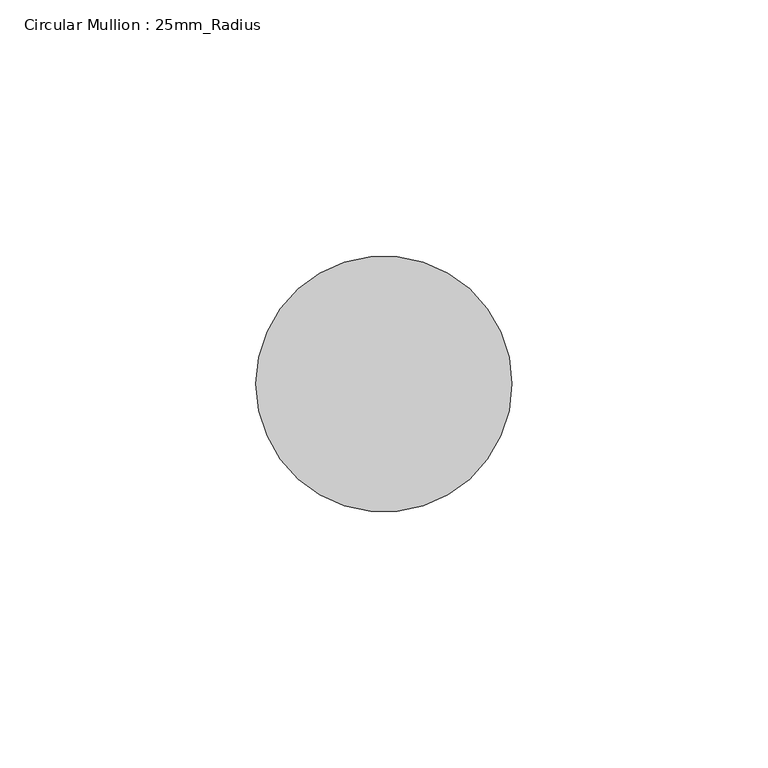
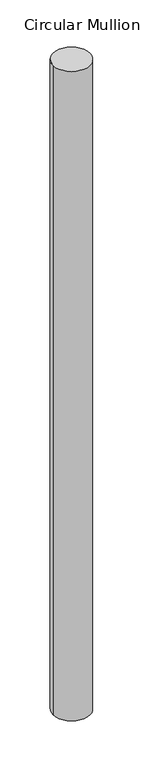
"""IFC4 building model written with IfcOpenShell, lengths in millimetres: member geometry, Circular Mullion : 25mm_Radius."""

from ifc_helpers import new_model, si_unit, point, frame, frame_2d, origin, place, context, project, spatial, circle_curve, trimmed, segment, composite_curve, outline, extrude, source, transform, mapped, element, save


def circular_mullion_25mm_radius_d6186367(model_context):
    return source(origin(), model_context, "Body", "SweptSolid", [
        extrude(outline(composite_curve([segment(trimmed(circle_curve(frame_2d((-25.0, 0.0)), 25.0), [point((0.0, 0.0))], [point((-50.0, 0.0))], False, "CARTESIAN"), True, "CONTINUOUS"), segment(trimmed(circle_curve(frame_2d((-25.0, 0.0)), 25.0), [point((-50.0, 0.0))], [point((0.0, 0.0))], False, "CARTESIAN"), True, "CONTINUOUS")], self_intersect=False)), frame((0.0, 0.0, -930.0), z_axis=(0.0, 0.0, 1.0), x_axis=(1.0, 0.0, 0.0)), (0.0, 0.0, 1.0), 930.0),
    ])


if __name__ == "__main__":
    model = new_model("IFC4")
    model_context = context("Model", 3, world=origin())
    ifc_project = project(units=[si_unit("LENGTHUNIT", "METRE", prefix="MILLI")], contexts=[model_context])
    site = spatial("IfcSite", under=ifc_project)
    building = spatial("IfcBuilding", under=site)
    placement = place(None, origin())
    circular_mullion_25mm_radius_shape = circular_mullion_25mm_radius_d6186367(model_context)
    element("IfcMember", 1, ObjectType="Circular Mullion : 25mm_Radius", at=placement, inside=building, context=model_context, shape_type="MappedRepresentation", body=[
        mapped(circular_mullion_25mm_radius_shape, transform((0.0, 0.0, 0.0), x_axis=(1.0, 0.0, 0.0), y_axis=(0.0, 1.0, 0.0), z_axis=(0.0, 0.0, 1.0))),
    ])
    save(model, "model.ifc")
